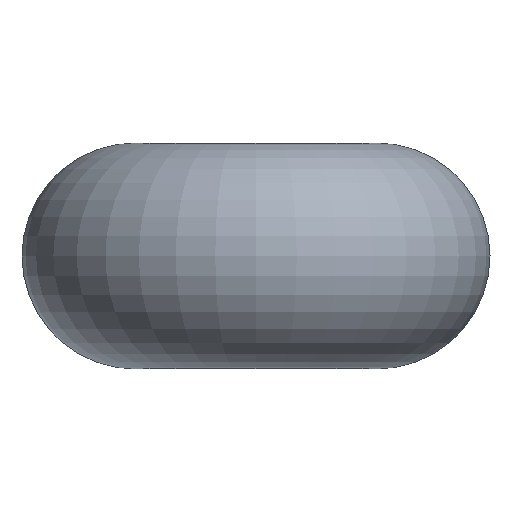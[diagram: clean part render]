
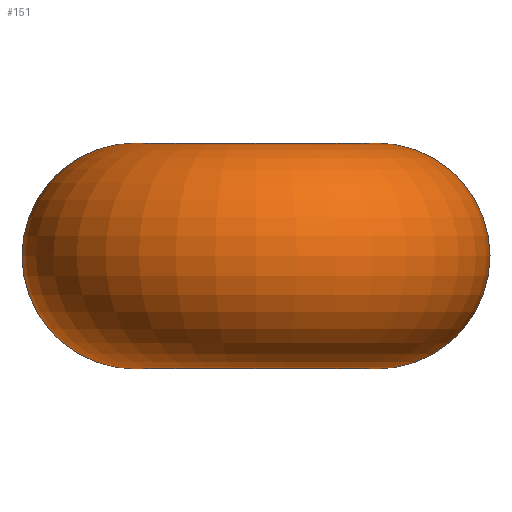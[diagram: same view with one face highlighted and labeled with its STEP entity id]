
A CAD part, left-side view. The second image highlights one B-rep face of the part: STEP entity #151.
In plain terms, the highlighted toroidal (fillet/blend) face has major radius 3 mm and minor radius 2.8 mm.
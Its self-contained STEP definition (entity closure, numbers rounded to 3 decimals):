
#1 = EDGE_LOOP ( 'NONE', ( #2, #3, #171, #169, #170, #167 ) ) ;
#2 = ORIENTED_EDGE ( 'NONE', *, *, #155, .F. ) ;
#3 = ORIENTED_EDGE ( 'NONE', *, *, #150, .T. ) ;
#6 = EDGE_CURVE ( 'NONE', #15, #27, #200, .T. ) ;
#15 = VERTEX_POINT ( 'NONE', #95 ) ;
#26 = EDGE_CURVE ( 'NONE', #27, #28, #193, .T. ) ;
#27 = VERTEX_POINT ( 'NONE', #185 ) ;
#28 = VERTEX_POINT ( 'NONE', #184 ) ;
#95 = CARTESIAN_POINT ( 'NONE',  ( 2.299, -1.927, -2.8 ) ) ;
#145 = VERTEX_POINT ( 'NONE', #409 ) ;
#147 = EDGE_CURVE ( 'NONE', #145, #28, #408, .T. ) ;
#150 = EDGE_CURVE ( 'NONE', #156, #15, #403, .T. ) ;
#151 = ADVANCED_FACE ( 'NONE', ( #398 ), #397, .T. ) ;
#155 = EDGE_CURVE ( 'NONE', #156, #157, #389, .T. ) ;
#156 = VERTEX_POINT ( 'NONE', #381 ) ;
#157 = VERTEX_POINT ( 'NONE', #380 ) ;
#167 = ORIENTED_EDGE ( 'NONE', *, *, #168, .F. ) ;
#168 = EDGE_CURVE ( 'NONE', #157, #145, #372, .T. ) ;
#169 = ORIENTED_EDGE ( 'NONE', *, *, #26, .T. ) ;
#170 = ORIENTED_EDGE ( 'NONE', *, *, #147, .F. ) ;
#171 = ORIENTED_EDGE ( 'NONE', *, *, #6, .T. ) ;
#184 = CARTESIAN_POINT ( 'NONE',  ( 2.299, -1.927, 2.8 ) ) ;
#185 = CARTESIAN_POINT ( 'NONE',  ( 4.445, -3.726, 0. ) ) ;
#186 = DIRECTION ( 'NONE',  ( 0., 0., -1. ) ) ;
#187 = DIRECTION ( 'NONE',  ( -0.642, -0.766, 0. ) ) ;
#188 = CARTESIAN_POINT ( 'NONE',  ( 2.299, -1.927, 0. ) ) ;
#189 = AXIS2_PLACEMENT_3D ( 'NONE', #188, #187, #186 ) ;
#193 = CIRCLE ( 'NONE', #189, 2.8 ) ;
#196 = DIRECTION ( 'NONE',  ( 0., 0., -1. ) ) ;
#197 = DIRECTION ( 'NONE',  ( -0.642, -0.766, 0. ) ) ;
#198 = CARTESIAN_POINT ( 'NONE',  ( 2.299, -1.927, 0. ) ) ;
#199 = AXIS2_PLACEMENT_3D ( 'NONE', #198, #197, #196 ) ;
#200 = CIRCLE ( 'NONE', #199, 2.8 ) ;
#369 = DIRECTION ( 'NONE',  ( 0., 0., -1. ) ) ;
#370 = DIRECTION ( 'NONE',  ( 0.642, -0.766, 0. ) ) ;
#371 = AXIS2_PLACEMENT_3D ( 'NONE', #378, #370, #369 ) ;
#372 = CIRCLE ( 'NONE', #371, 2.8 ) ;
#378 = CARTESIAN_POINT ( 'NONE',  ( 2.299, 1.927, 0. ) ) ;
#380 = CARTESIAN_POINT ( 'NONE',  ( 4.445, 3.726, 0. ) ) ;
#381 = CARTESIAN_POINT ( 'NONE',  ( 2.299, 1.927, -2.8 ) ) ;
#382 = DIRECTION ( 'NONE',  ( 0., 0., -1. ) ) ;
#383 = DIRECTION ( 'NONE',  ( 0.642, -0.766, 0. ) ) ;
#384 = CARTESIAN_POINT ( 'NONE',  ( 2.299, 1.927, 0. ) ) ;
#385 = AXIS2_PLACEMENT_3D ( 'NONE', #384, #383, #382 ) ;
#389 = CIRCLE ( 'NONE', #385, 2.8 ) ;
#392 = DIRECTION ( 'NONE',  ( 1., 0., 0. ) ) ;
#393 = DIRECTION ( 'NONE',  ( 0., 0., 1. ) ) ;
#394 = AXIS2_PLACEMENT_3D ( 'NONE', #396, #393, #392 ) ;
#396 = CARTESIAN_POINT ( 'NONE',  ( 0., 0., 0. ) ) ;
#397 = TOROIDAL_SURFACE ( 'NONE', #394, 3., 2.8 ) ;
#398 = FACE_OUTER_BOUND ( 'NONE', #1, .T. ) ;
#399 = DIRECTION ( 'NONE',  ( 1., 0., 0. ) ) ;
#400 = DIRECTION ( 'NONE',  ( 0., 0., 1. ) ) ;
#401 = CARTESIAN_POINT ( 'NONE',  ( 0., 0., -2.8 ) ) ;
#402 = AXIS2_PLACEMENT_3D ( 'NONE', #401, #400, #399 ) ;
#403 = CIRCLE ( 'NONE', #402, 3. ) ;
#404 = DIRECTION ( 'NONE',  ( 1., 0., 0. ) ) ;
#405 = DIRECTION ( 'NONE',  ( 0., 0., 1. ) ) ;
#406 = CARTESIAN_POINT ( 'NONE',  ( 0., 0., 2.8 ) ) ;
#407 = AXIS2_PLACEMENT_3D ( 'NONE', #406, #405, #404 ) ;
#408 = CIRCLE ( 'NONE', #407, 3. ) ;
#409 = CARTESIAN_POINT ( 'NONE',  ( 2.299, 1.927, 2.8 ) ) ;
